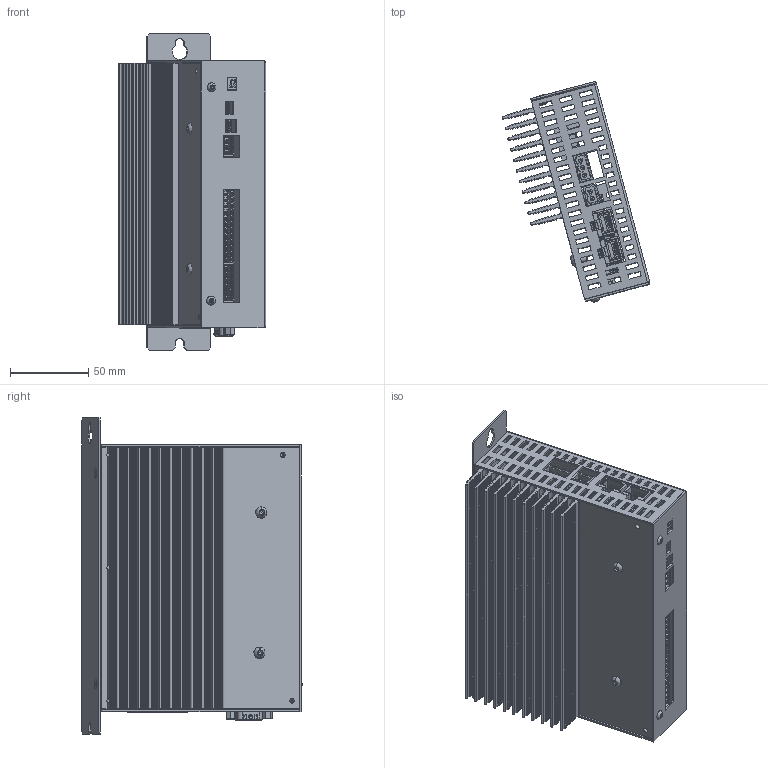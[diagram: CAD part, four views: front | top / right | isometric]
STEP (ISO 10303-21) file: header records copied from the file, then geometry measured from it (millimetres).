
FILE_DESCRIPTION(/* description */ (''),/* implementation_level */ '2;1');
FILE_NAME(/* name */ 'C:\Users\Jean-Yves\Documents\Inventor\SMD230\smd230-2a version A\smd-2a_version-A.stp',/* time_stamp */ '2020-05-14T17:33:49+02:00',/* author */ ('Jean-Yves'),/* organization */ (''),/* preprocessor_version */ 'ST-DEVELOPER v18',/* originating_system */ 'Autodesk Inventor 2020',/* authorisation */ '');
FILE_SCHEMA (('CONFIG_CONTROL_DESIGN'));
Products named in the file (1): smd-2a_Shrinkwrap_2
Bounding box: 94.14 x 140.58 x 202 mm (x, y, z)
Volume: 228416.4 mm3; surface area: 262090.3 mm2
Topology: 25 solids, 25 shells, 7705 faces, 20484 edges, 13194 vertices
Faces by surface type: plane 6196, cylinder 1081, cone 187, bspline 115, torus 78, sphere 48
Full cylindrical faces by diameter (mm): 0.434 x3, 0.457 x4, 0.8 x1, 1.12 x9, 1.2 x25, 1.25 x25, 1.36 x9, 1.4 x9, 1.5 x9, 1.6 x21, 1.72 x9, 2.25 x9, 2.459 x6, 2.5 x4, 2.8 x8, 3 x8, 3.1 x2, 3.2 x2, 3.5 x2, 3.7 x4, 4 x4, 4.2 x2, 6 x2
Entity records: 259097 total; most frequent: CARTESIAN_POINT 58208, ORIENTED_EDGE 40824, DIRECTION 38320, EDGE_CURVE 20412, LINE 16834, VECTOR 16834, VERTEX_POINT 13193, AXIS2_PLACEMENT_3D 10743
